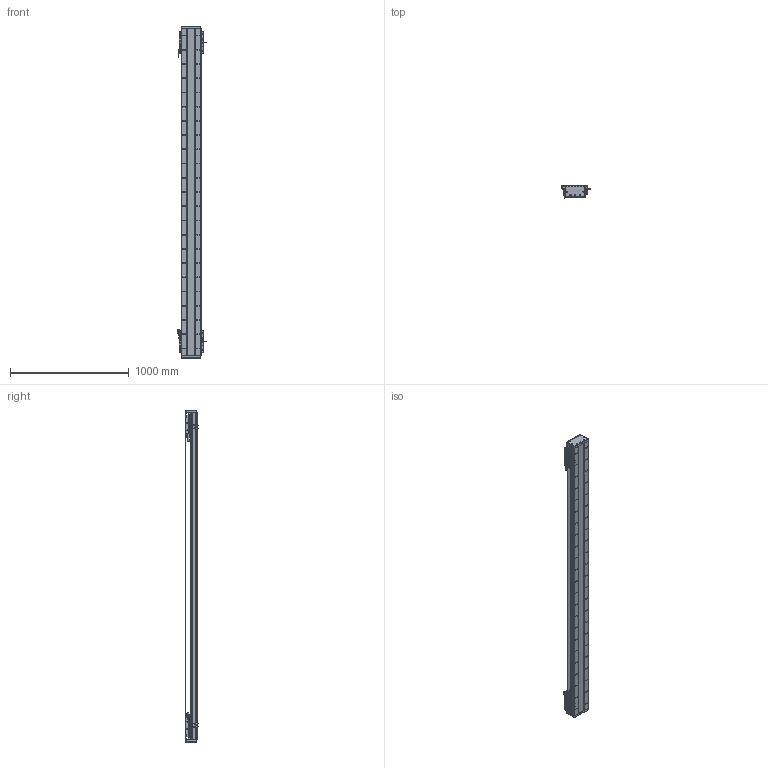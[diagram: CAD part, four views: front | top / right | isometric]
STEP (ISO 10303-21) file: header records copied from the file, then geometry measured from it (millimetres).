
FILE_DESCRIPTION (( 'STEP AP203' ), '1' );
FILE_NAME ('DA-C165-2-C2-T2300-C010-0.2 直线电机.STEP', '2023-05-11T08:28:16', ( '微软用户' ), ( '微软中国' ), 'SwSTEP 2.0', 'SolidWorks 2019', '' );
FILE_SCHEMA (( 'CONFIG_CONTROL_DESIGN' ));
Length unit declared in the file: millimetre
Products named in the file (22): 葩璃 CKM01-W075-TRL^DA-C165-C2-T-C010-0.2-N 眻盄萇儂; 复件 DA95-HXJ-00 缓冲橡胶^DA-C165-C2-T-C010-0.2-N 直线电机; 复件 CU165钢带组件^DA-C165-C2-T-C010-0.2-N 直线电机; 复件 66338-1000-006-00 光电感应块^DA-C165-C2-T-C010-0.2-N 直线电机; 复件 DA165-GD-1860-002-00 钢带盖板^复件 CU165钢带组件_DA-C165-C2-T-C010-0.2-N 直线电机; 复件 DA165-GYP-00 光电感应片^DA-C165-C2-T-C010-0.2-N 直线电机; 复件 DA165-GD-DG-H-00 端盖^复件 CU165钢带组件_DA-C165-C2-T-C010-0.2-N 直线电机; 珨极趙賑雄怢啣wf-C2; 复件 CKM02-W075-C1C2-TP-3.0 一体电机-C2^DA-C165-C2-T-C010-0.2-N 直线电机; 复件 DA165-GDYK-00 钢带压块^复件 CU165钢带组件_DA-C165-C2-T-C010-0.2-N 直线电机; 复件 六角薄螺母 M3^DA-C165-C2-T-C010-0.2-N 直线电机_GB_FASTENER_NUT_STNAB M3-C; IU-CU165-L 菁釱絳寢; 葩璃 DA95-GT-T-00^IU-CU165-L 菁釱絳寢_T; 葩璃 PM-Y45^DA-C165-C2-T-C010-0.2-N 眻盄萇儂; DA-C165-2-C2-T2300-C010-0.2 眻盄萇儂; 葩璃 PM-T45^DA-C165-C2-T-C010-0.2-N 眻盄萇儂; 复件 DA165-GDLK-00 钢带拉块^复件 CU165钢带组件_DA-C165-C2-T-C010-0.2-N 直线电机; 复件 DMA-010-0.2 读数头^DA-C165-C2-T-C010-0.2-N 直线电机; 复件 DKW-HXJ-JY-00 缓冲橡胶^DA-C165-C2-T-C010-0.2-N 直线电机; 复件 DA126-GYP-ZJ-00 中间光电感应片^DA-C165-C2-T-C010-0.2-N 直线电机; IU-CU165-L-00 菁釱_L2760; 复件 XD-U-02L 磁栅尺^DA-C165-C2-T-C010-0.2-N 直线电机_T
Assembly tree (43 placements, depth 3):
  DA-C165-2-C2-T2300-C010-0.2 眻盄萇儂
    IU-CU165-L 菁釱絳寢
      IU-CU165-L-00 菁釱_L2760
      葩璃 DA95-GT-T-00^IU-CU165-L 菁釱絳寢_T  x4
    复件 XD-U-02L 磁栅尺^DA-C165-C2-T-C010-0.2-N 直线电机_T
    葩璃 PM-T45^DA-C165-C2-T-C010-0.2-N 眻盄萇儂  x4
    葩璃 CKM01-W075-TRL^DA-C165-C2-T-C010-0.2-N 眻盄萇儂
    复件 CU165钢带组件^DA-C165-C2-T-C010-0.2-N 直线电机
      复件 DA165-GD-DG-H-00 端盖^复件 CU165钢带组件_DA-C165-C2-T-C010-0.2-N 直线电机  x2
      复件 DA165-GDYK-00 钢带压块^复件 CU165钢带组件_DA-C165-C2-T-C010-0.2-N 直线电机  x2
      复件 DA165-GD-1860-002-00 钢带盖板^复件 CU165钢带组件_DA-C165-C2-T-C010-0.2-N 直线电机
      复件 DA165-GDLK-00 钢带拉块^复件 CU165钢带组件_DA-C165-C2-T-C010-0.2-N 直线电机  x2
    复件 DA95-HXJ-00 缓冲橡胶^DA-C165-C2-T-C010-0.2-N 直线电机  x4
    复件 CKM02-W075-C1C2-TP-3.0 一体电机-C2^DA-C165-C2-T-C010-0.2-N 直线电机  x2
    复件 DMA-010-0.2 读数头^DA-C165-C2-T-C010-0.2-N 直线电机  x2
    复件 DA165-GYP-00 光电感应片^DA-C165-C2-T-C010-0.2-N 直线电机  x2
    复件 66338-1000-006-00 光电感应块^DA-C165-C2-T-C010-0.2-N 直线电机
    葩璃 PM-Y45^DA-C165-C2-T-C010-0.2-N 眻盄萇儂
    复件 DA126-GYP-ZJ-00 中间光电感应片^DA-C165-C2-T-C010-0.2-N 直线电机
    复件 DKW-HXJ-JY-00 缓冲橡胶^DA-C165-C2-T-C010-0.2-N 直线电机  x2
    复件 六角薄螺母 M3^DA-C165-C2-T-C010-0.2-N 直线电机_GB_FASTENER_NUT_STNAB M3-C  x6
    珨极趙賑雄怢啣wf-C2  x2
Bounding box: 247.2 x 111.45 x 2800 mm (x, y, z)
Volume: 17032342.6 mm3; surface area: 4963597.3 mm2
Topology: 119 solids, 119 shells, 5735 faces, 16184 edges, 10226 vertices
Faces by surface type: cylinder 3132, plane 1811, cone 704, torus 80, sphere 8
Entity records: 140078 total; most frequent: CARTESIAN_POINT 37707, ORIENTED_EDGE 21312, DIRECTION 20460, EDGE_CURVE 10656, AXIS2_PLACEMENT_3D 7778, VERTEX_POINT 6963, LINE 4904, VECTOR 4904
